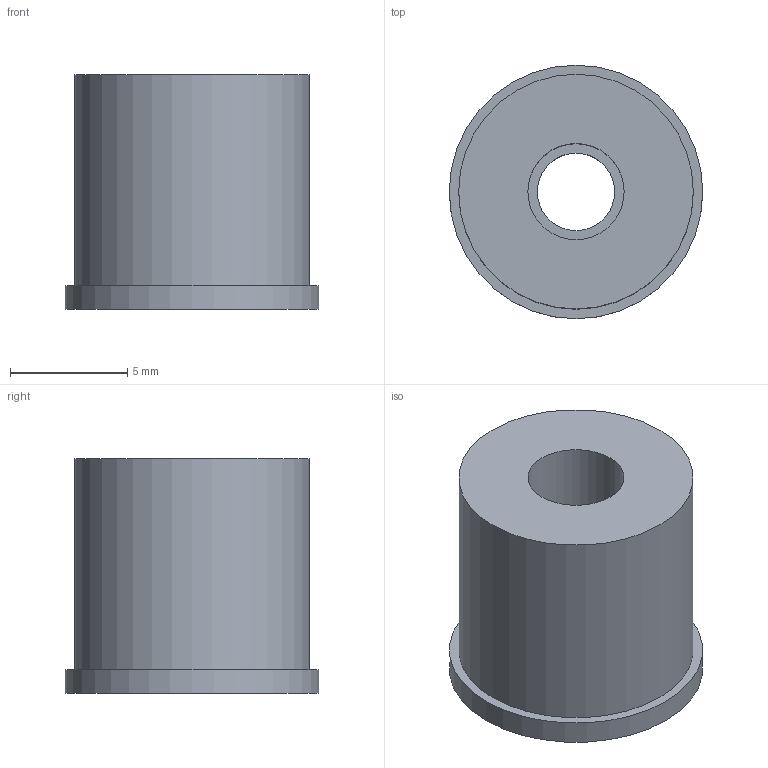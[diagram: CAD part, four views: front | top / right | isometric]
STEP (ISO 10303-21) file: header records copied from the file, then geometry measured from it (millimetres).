
FILE_DESCRIPTION(('Open CASCADE Model'),'2;1');
FILE_NAME('Open CASCADE Shape Model','2026-10-21T12:47:56',('Author'),( 'Open CASCADE'),'Open CASCADE STEP processor 7.9','Open CASCADE 7.9' ,'Unknown');
FILE_SCHEMA(('AUTOMOTIVE_DESIGN { 1 0 10303 214 1 1 1 1 }'));
Length unit declared in the file: millimetre
Products named in the file (1): Open CASCADE STEP translator 7.9 6
Bounding box: 10.8 x 10.8 x 10 mm (x, y, z)
Volume: 685 mm3; surface area: 601.5 mm2
Topology: 1 solids, 1 shells, 8 faces, 12 edges, 8 vertices
Faces by surface type: cylinder 4, plane 4
Full cylindrical faces by diameter (mm): 3.3 x1, 4.1 x1, 10 x1, 10.8 x1
Entity records: 354 total; most frequent: DIRECTION 62, CARTESIAN_POINT 53, ORIENTED_EDGE 24, PCURVE 24, DEFINITIONAL_REPRESENTATION 24, LINE 20, VECTOR 20, AXIS2_PLACEMENT_3D 17
